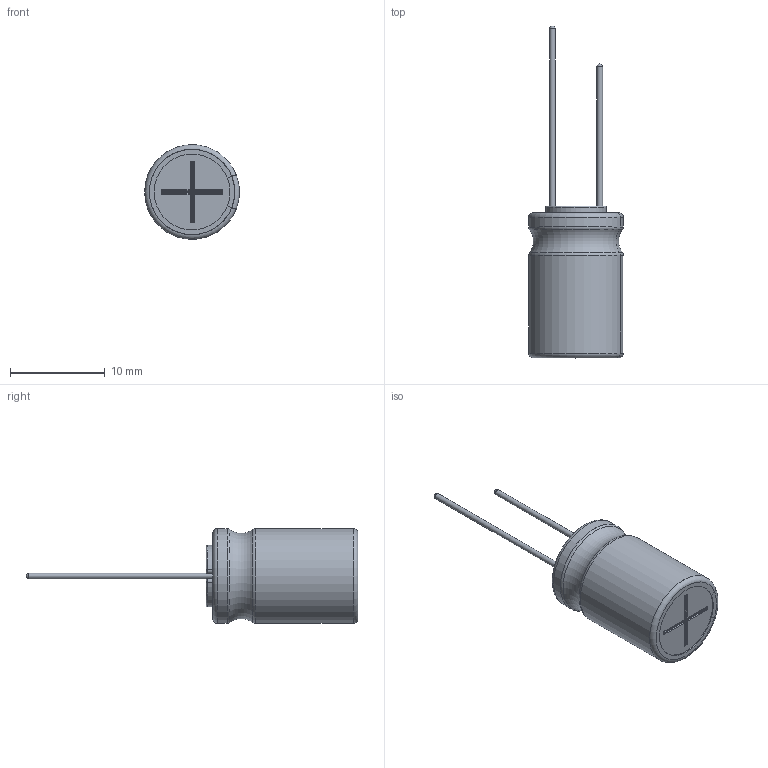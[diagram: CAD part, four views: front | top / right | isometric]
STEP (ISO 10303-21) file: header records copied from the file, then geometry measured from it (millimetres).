
FILE_DESCRIPTION(/* description */ (''),/* implementation_level */ '2;1');
FILE_NAME(/* name */ '10x16_Lead.stp',/* time_stamp */ '2017-09-05T14:08:53+09:00',/* author */ (''),/* organization */ (''),/* preprocessor_version */ 'ST-DEVELOPER v16',/* originating_system */ 'SIEMENS PLM Software NX 11.0',/* authorisation */ '');
FILE_SCHEMA (('AUTOMOTIVE_DESIGN { 1 0 10303 214 3 1 1 1 }'));
Length unit declared in the file: millimetre
Products named in the file (1): 10x16_Lead_0
Bounding box: 9.99 x 35 x 10 mm (x, y, z)
Volume: 1195.6 mm3; surface area: 1733.3 mm2
Topology: 3 solids, 3 shells, 115 faces, 288 edges, 181 vertices
Faces by surface type: cylinder 44, torus 33, plane 28, sphere 6, bspline 4
Full cylindrical faces by diameter (mm): 0.6 x2, 9.8 x2
Entity records: 4020 total; most frequent: CARTESIAN_POINT 680, DIRECTION 664, ORIENTED_EDGE 544, AXIS2_PLACEMENT_3D 280, EDGE_CURVE 272, VERTEX_POINT 176, CIRCLE 160, EDGE_LOOP 128
